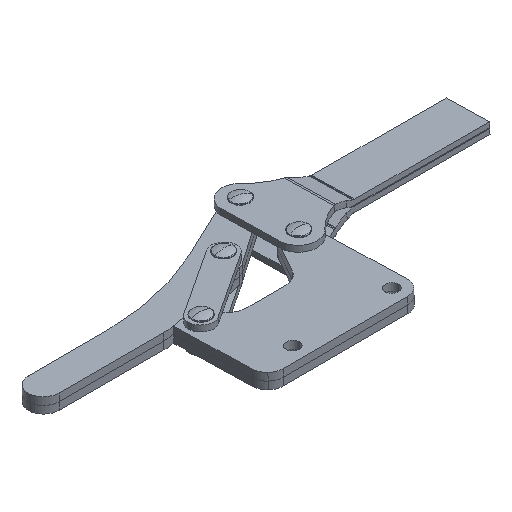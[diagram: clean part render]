
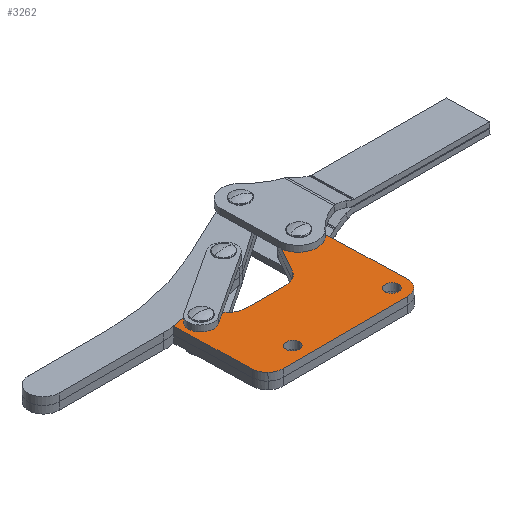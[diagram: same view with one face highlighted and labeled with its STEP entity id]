
A CAD part, isometric view. The second image highlights one B-rep face of the part: STEP entity #3262.
In plain terms, the highlighted planar face has unit normal (-0.003, 0.029, 1) as drawn and (0, 0, 1) by its records, which use the part's own axes.
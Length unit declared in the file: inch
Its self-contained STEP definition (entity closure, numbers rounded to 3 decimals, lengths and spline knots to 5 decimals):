
#2482=CARTESIAN_POINT('',(0.216,1.0,0.0));
#2483=VERTEX_POINT('',#2482);
#2499=CARTESIAN_POINT('',(0.47,1.0,0.0));
#2500=VERTEX_POINT('',#2499);
#2507=CARTESIAN_POINT('',(0.343,1.0,0.0));
#2508=DIRECTION('',(0.0,0.0,-1.0));
#2509=DIRECTION('',(-1.0,0.0,0.0));
#2510=AXIS2_PLACEMENT_3D('',#2507,#2508,#2509);
#2511=CIRCLE('',#2510,0.127);
#2512=EDGE_CURVE('',#2483,#2500,#2511,.T.);
#2524=CARTESIAN_POINT('',(2.686,1.5,0.0));
#2525=VERTEX_POINT('',#2524);
#2541=CARTESIAN_POINT('',(2.94,1.5,0.0));
#2542=VERTEX_POINT('',#2541);
#2549=CARTESIAN_POINT('',(2.813,1.5,0.0));
#2550=DIRECTION('',(0.0,0.0,-1.0));
#2551=DIRECTION('',(-1.0,0.0,0.0));
#2552=AXIS2_PLACEMENT_3D('',#2549,#2550,#2551);
#2553=CIRCLE('',#2552,0.127);
#2554=EDGE_CURVE('',#2525,#2542,#2553,.T.);
#2564=CARTESIAN_POINT('',(0.09138,-0.59562,0.0));
#2565=VERTEX_POINT('',#2564);
#2574=CARTESIAN_POINT('',(0.0,-0.375,0.0));
#2575=VERTEX_POINT('',#2574);
#2576=CARTESIAN_POINT('',(0.312,-0.375,0.0));
#2577=DIRECTION('',(0.0,0.0,-1.));
#2578=DIRECTION('',(-0.707,-0.707,0.0));
#2579=AXIS2_PLACEMENT_3D('',#2576,#2577,#2578);
#2580=CIRCLE('',#2579,0.312);
#2581=EDGE_CURVE('',#2565,#2575,#2580,.T.);
#2606=CARTESIAN_POINT('',(3.03362,-0.59562,0.0));
#2607=VERTEX_POINT('',#2606);
#2616=CARTESIAN_POINT('',(2.813,-0.687,0.0));
#2617=VERTEX_POINT('',#2616);
#2618=CARTESIAN_POINT('',(2.813,-0.375,0.0));
#2619=DIRECTION('',(0.0,0.0,-1.0));
#2620=DIRECTION('',(0.707,-0.707,0.0));
#2621=AXIS2_PLACEMENT_3D('',#2618,#2619,#2620);
#2622=CIRCLE('',#2621,0.312);
#2623=EDGE_CURVE('',#2607,#2617,#2622,.T.);
#2650=CARTESIAN_POINT('',(0.68,-0.375,0.0));
#2651=VERTEX_POINT('',#2650);
#2667=CARTESIAN_POINT('',(0.946,-0.375,0.0));
#2668=VERTEX_POINT('',#2667);
#2675=CARTESIAN_POINT('',(0.813,-0.375,0.0));
#2676=DIRECTION('',(0.0,0.0,-1.0));
#2677=DIRECTION('',(-1.0,0.0,0.0));
#2678=AXIS2_PLACEMENT_3D('',#2675,#2676,#2677);
#2679=CIRCLE('',#2678,0.133);
#2680=EDGE_CURVE('',#2651,#2668,#2679,.T.);
#2692=CARTESIAN_POINT('',(2.68,-0.375,0.0));
#2693=VERTEX_POINT('',#2692);
#2709=CARTESIAN_POINT('',(2.946,-0.375,0.0));
#2710=VERTEX_POINT('',#2709);
#2717=CARTESIAN_POINT('',(2.813,-0.375,0.0));
#2718=DIRECTION('',(0.0,0.0,-1.0));
#2719=DIRECTION('',(-1.0,0.0,0.0));
#2720=AXIS2_PLACEMENT_3D('',#2717,#2718,#2719);
#2721=CIRCLE('',#2720,0.133);
#2722=EDGE_CURVE('',#2693,#2710,#2721,.T.);
#2733=CARTESIAN_POINT('',(2.813,-0.375,0.0));
#2734=DIRECTION('',(0.0,0.0,-1.0));
#2735=DIRECTION('',(-1.0,0.0,0.0));
#2736=AXIS2_PLACEMENT_3D('',#2733,#2734,#2735);
#2737=CIRCLE('',#2736,0.133);
#2738=EDGE_CURVE('',#2710,#2693,#2737,.T.);
#2757=CARTESIAN_POINT('',(0.813,-0.375,0.0));
#2758=DIRECTION('',(0.0,0.0,-1.0));
#2759=DIRECTION('',(-1.0,0.0,0.0));
#2760=AXIS2_PLACEMENT_3D('',#2757,#2758,#2759);
#2761=CIRCLE('',#2760,0.133);
#2762=EDGE_CURVE('',#2668,#2651,#2761,.T.);
#2790=CARTESIAN_POINT('',(3.125,-0.375,0.0));
#2791=VERTEX_POINT('',#2790);
#2798=CARTESIAN_POINT('',(2.813,-0.375,0.0));
#2799=DIRECTION('',(0.0,0.0,-1.0));
#2800=DIRECTION('',(0.707,-0.707,0.0));
#2801=AXIS2_PLACEMENT_3D('',#2798,#2799,#2800);
#2802=CIRCLE('',#2801,0.312);
#2803=EDGE_CURVE('',#2791,#2607,#2802,.T.);
#2941=CARTESIAN_POINT('',(0.312,-0.687,0.0));
#2942=VERTEX_POINT('',#2941);
#2943=CARTESIAN_POINT('',(0.312,-0.687,0.0));
#2944=DIRECTION('',(1.0,0.0,0.0));
#2945=VECTOR('',#2944,2.501);
#2946=LINE('',#2943,#2945);
#2947=EDGE_CURVE('',#2942,#2617,#2946,.T.);
#2967=CARTESIAN_POINT('',(0.312,-0.375,0.0));
#2968=DIRECTION('',(0.0,0.0,-1.));
#2969=DIRECTION('',(-0.707,-0.707,0.0));
#2970=AXIS2_PLACEMENT_3D('',#2967,#2968,#2969);
#2971=CIRCLE('',#2970,0.312);
#2972=EDGE_CURVE('',#2942,#2565,#2971,.T.);
#2983=CARTESIAN_POINT('',(0.72203,0.9695,0.0));
#2984=VERTEX_POINT('',#2983);
#2991=CARTESIAN_POINT('',(1.04679,0.782,0.0));
#2992=VERTEX_POINT('',#2991);
#2993=CARTESIAN_POINT('',(1.04679,1.157,0.0));
#2994=DIRECTION('',(0.0,0.0,-1.0));
#2995=DIRECTION('',(-0.866,-0.5,0.0));
#2996=AXIS2_PLACEMENT_3D('',#2993,#2994,#2995);
#2997=CIRCLE('',#2996,0.375);
#2998=EDGE_CURVE('',#2992,#2984,#2997,.T.);
#3016=CARTESIAN_POINT('',(1.82169,0.782,0.0));
#3017=VERTEX_POINT('',#3016);
#3018=CARTESIAN_POINT('',(1.82169,0.782,0.0));
#3019=DIRECTION('',(-1.0,0.0,0.0));
#3020=VECTOR('',#3019,0.7749);
#3021=LINE('',#3018,#3020);
#3022=EDGE_CURVE('',#3017,#2992,#3021,.T.);
#3040=CARTESIAN_POINT('',(2.14645,0.9695,0.0));
#3041=VERTEX_POINT('',#3040);
#3042=CARTESIAN_POINT('',(1.82169,1.157,0.0));
#3043=DIRECTION('',(0.0,0.0,-1.0));
#3044=DIRECTION('',(0.0,-1.0,0.0));
#3045=AXIS2_PLACEMENT_3D('',#3042,#3043,#3044);
#3046=CIRCLE('',#3045,0.375);
#3047=EDGE_CURVE('',#3041,#3017,#3046,.T.);
#3064=CARTESIAN_POINT('',(0.0,1.21727,0.0));
#3065=VERTEX_POINT('',#3064);
#3066=CARTESIAN_POINT('',(0.0,1.21727,0.0));
#3067=DIRECTION('',(0.0,-1.0,0.0));
#3068=VECTOR('',#3067,1.59227);
#3069=LINE('',#3066,#3068);
#3070=EDGE_CURVE('',#3065,#2575,#3069,.T.);
#3089=CARTESIAN_POINT('',(3.125,1.5,0.0));
#3090=VERTEX_POINT('',#3089);
#3097=CARTESIAN_POINT('',(3.125,-0.375,0.0));
#3098=DIRECTION('',(0.0,1.0,0.0));
#3099=VECTOR('',#3098,1.875);
#3100=LINE('',#3097,#3099);
#3101=EDGE_CURVE('',#2791,#3090,#3100,.T.);
#3111=CARTESIAN_POINT('',(2.5428,1.656,0.0));
#3112=VERTEX_POINT('',#3111);
#3113=CARTESIAN_POINT('',(2.5428,1.656,0.0));
#3114=DIRECTION('',(-0.5,-0.866,0.0));
#3115=VECTOR('',#3114,0.7927);
#3116=LINE('',#3113,#3115);
#3117=EDGE_CURVE('',#3112,#3041,#3116,.T.);
#3136=CARTESIAN_POINT('',(2.813,1.5,0.0));
#3137=DIRECTION('',(0.0,0.0,-1.0));
#3138=DIRECTION('',(-1.0,0.0,0.0));
#3139=AXIS2_PLACEMENT_3D('',#3136,#3137,#3138);
#3140=CIRCLE('',#3139,0.127);
#3141=EDGE_CURVE('',#2542,#2525,#3140,.T.);
#3154=CARTESIAN_POINT('',(0.343,1.0,0.0));
#3155=DIRECTION('',(0.0,0.0,-1.0));
#3156=DIRECTION('',(-1.0,0.0,0.0));
#3157=AXIS2_PLACEMENT_3D('',#3154,#3155,#3156);
#3158=CIRCLE('',#3157,0.127);
#3159=EDGE_CURVE('',#2500,#2483,#3158,.T.);
#3173=CARTESIAN_POINT('',(2.813,1.5,0.0));
#3174=DIRECTION('',(0.0,0.0,1.0));
#3175=DIRECTION('',(1.0,0.0,0.0));
#3176=AXIS2_PLACEMENT_3D('',#3173,#3174,#3175);
#3177=CIRCLE('',#3176,0.312);
#3178=EDGE_CURVE('',#3090,#3112,#3177,.T.);
#3190=CARTESIAN_POINT('',(0.5157,1.32688,0.0));
#3191=VERTEX_POINT('',#3190);
#3198=CARTESIAN_POINT('',(0.72203,0.9695,0.0));
#3199=DIRECTION('',(-0.5,0.866,0.0));
#3200=VECTOR('',#3199,0.41267);
#3201=LINE('',#3198,#3200);
#3202=EDGE_CURVE('',#2984,#3191,#3201,.T.);
#3215=CARTESIAN_POINT('',(0.5157,1.32688,0.0));
#3216=DIRECTION('',(-0.978,-0.208,0.0));
#3217=VECTOR('',#3216,0.52722);
#3218=LINE('',#3215,#3217);
#3219=EDGE_CURVE('',#3191,#3065,#3218,.T.);
#3225=CARTESIAN_POINT('',(1.64697,0.6717,0.0));
#3226=DIRECTION('',(0.0,0.0,1.0));
#3227=DIRECTION('',(1.0,0.0,0.0));
#3228=AXIS2_PLACEMENT_3D('',#3225,#3226,#3227);
#3229=PLANE('',#3228);
#3230=ORIENTED_EDGE('',*,*,#2803,.F.);
#3231=ORIENTED_EDGE('',*,*,#3101,.T.);
#3232=ORIENTED_EDGE('',*,*,#3178,.T.);
#3233=ORIENTED_EDGE('',*,*,#3117,.T.);
#3234=ORIENTED_EDGE('',*,*,#3047,.T.);
#3235=ORIENTED_EDGE('',*,*,#3022,.T.);
#3236=ORIENTED_EDGE('',*,*,#2998,.T.);
#3237=ORIENTED_EDGE('',*,*,#3202,.T.);
#3238=ORIENTED_EDGE('',*,*,#3219,.T.);
#3239=ORIENTED_EDGE('',*,*,#3070,.T.);
#3240=ORIENTED_EDGE('',*,*,#2581,.F.);
#3241=ORIENTED_EDGE('',*,*,#2972,.F.);
#3242=ORIENTED_EDGE('',*,*,#2947,.T.);
#3243=ORIENTED_EDGE('',*,*,#2623,.F.);
#3244=EDGE_LOOP('',(#3230,#3231,#3232,#3233,#3234,#3235,#3236,#3237,#3238,#3239,#3240,#3241,#3242,#3243));
#3245=FACE_OUTER_BOUND('',#3244,.T.);
#3246=ORIENTED_EDGE('',*,*,#2738,.T.);
#3247=ORIENTED_EDGE('',*,*,#2722,.T.);
#3248=EDGE_LOOP('',(#3246,#3247));
#3249=FACE_BOUND('',#3248,.T.);
#3250=ORIENTED_EDGE('',*,*,#2762,.T.);
#3251=ORIENTED_EDGE('',*,*,#2680,.T.);
#3252=EDGE_LOOP('',(#3250,#3251));
#3253=FACE_BOUND('',#3252,.T.);
#3254=ORIENTED_EDGE('',*,*,#3141,.T.);
#3255=ORIENTED_EDGE('',*,*,#2554,.T.);
#3256=EDGE_LOOP('',(#3254,#3255));
#3257=FACE_BOUND('',#3256,.T.);
#3258=ORIENTED_EDGE('',*,*,#3159,.T.);
#3259=ORIENTED_EDGE('',*,*,#2512,.T.);
#3260=EDGE_LOOP('',(#3258,#3259));
#3261=FACE_BOUND('',#3260,.T.);
#3262=ADVANCED_FACE('',(#3245,#3249,#3253,#3257,#3261),#3229,.T.);
